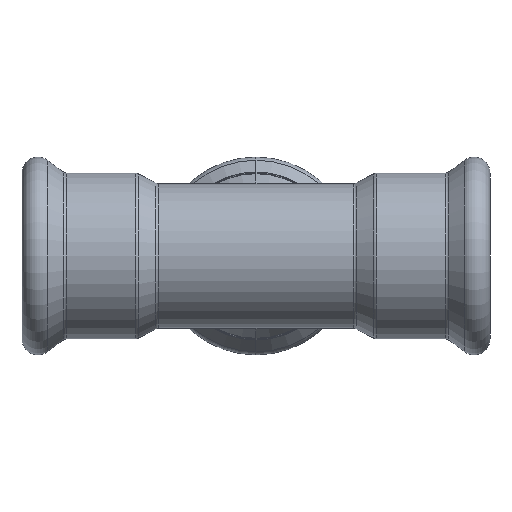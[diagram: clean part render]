
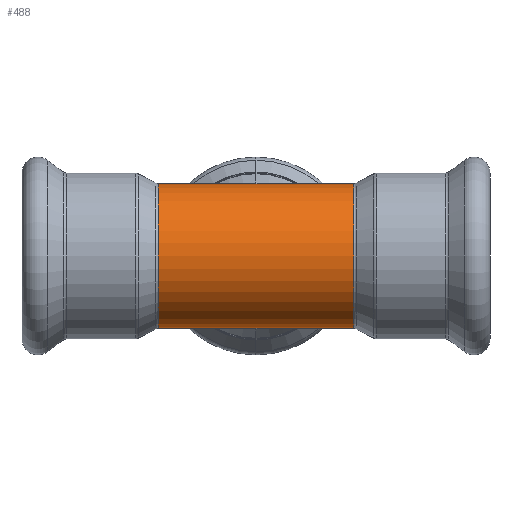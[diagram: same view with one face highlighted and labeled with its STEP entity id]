
A CAD part, front view. The second image highlights one B-rep face of the part: STEP entity #488.
In plain terms, the highlighted cylindrical face has radius 13.6 mm (diameter 27.2 mm), a partial arc.
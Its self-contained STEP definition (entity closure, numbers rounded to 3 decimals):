
#31 = AXIS2_PLACEMENT_3D ( 'NONE', #3739, #552, #871 ) ;
#71 = VERTEX_POINT ( 'NONE', #2416 ) ;
#248 = CYLINDRICAL_SURFACE ( 'NONE', #31, 13.6 ) ;
#256 = DIRECTION ( 'NONE',  ( -1., 0., 0. ) ) ;
#488 = ADVANCED_FACE ( 'NONE', ( #4178 ), #248, .T. ) ;
#528 = CARTESIAN_POINT ( 'NONE',  ( 0., 0., 13.6 ) ) ;
#552 = DIRECTION ( 'NONE',  ( -1., 0., 0. ) ) ;
#606 = VERTEX_POINT ( 'NONE', #2000 ) ;
#739 = DIRECTION ( 'NONE',  ( -1., 0., 0. ) ) ;
#749 = VERTEX_POINT ( 'NONE', #528 ) ;
#871 = DIRECTION ( 'NONE',  ( 0., 0., 1. ) ) ;
#897 = EDGE_CURVE ( 'NONE', #1519, #1381, #969, .T. ) ;
#934 = EDGE_CURVE ( 'NONE', #1381, #2512, #951, .T. ) ;
#951 = LINE ( 'NONE', #2888, #2190 ) ;
#969 = LINE ( 'NONE', #3544, #3622 ) ;
#998 = CARTESIAN_POINT ( 'NONE',  ( -18.377, 0., -13.6 ) ) ;
#1047 = DIRECTION ( 'NONE',  ( -1., 0., 0. ) ) ;
#1184 = ORIENTED_EDGE ( 'NONE', *, *, #1254, .T. ) ;
#1254 = EDGE_CURVE ( 'NONE', #606, #2512, #3752, .T. ) ;
#1336 = ORIENTED_EDGE ( 'NONE', *, *, #934, .F. ) ;
#1381 = VERTEX_POINT ( 'NONE', #3206 ) ;
#1426 = CARTESIAN_POINT ( 'NONE',  ( 0., 0., 13.6 ) ) ;
#1462 = AXIS2_PLACEMENT_3D ( 'NONE', #2139, #1527, #2807 ) ;
#1519 = VERTEX_POINT ( 'NONE', #2634 ) ;
#1527 = DIRECTION ( 'NONE',  ( 1., 0., 0. ) ) ;
#1609 = ORIENTED_EDGE ( 'NONE', *, *, #3535, .T. ) ;
#1745 = ORIENTED_EDGE ( 'NONE', *, *, #3488, .T. ) ;
#1904 = DIRECTION ( 'NONE',  ( -1., 0., 0. ) ) ;
#2000 = CARTESIAN_POINT ( 'NONE',  ( -18.377, 0., 13.6 ) ) ;
#2109 = DIRECTION ( 'NONE',  ( 0., 0., 1. ) ) ;
#2139 = CARTESIAN_POINT ( 'NONE',  ( -18.377, 0., 0. ) ) ;
#2190 = VECTOR ( 'NONE', #1904, 1000. ) ;
#2287 = EDGE_CURVE ( 'NONE', #749, #606, #3979, .T. ) ;
#2335 = EDGE_LOOP ( 'NONE', ( #3288, #1609, #1745, #2611, #1184, #1336 ) ) ;
#2416 = CARTESIAN_POINT ( 'NONE',  ( 18.377, 0., 13.6 ) ) ;
#2512 = VERTEX_POINT ( 'NONE', #998 ) ;
#2611 = ORIENTED_EDGE ( 'NONE', *, *, #2287, .T. ) ;
#2634 = CARTESIAN_POINT ( 'NONE',  ( 18.377, 0., -13.6 ) ) ;
#2662 = CIRCLE ( 'NONE', #3475, 13.6 ) ;
#2671 = VECTOR ( 'NONE', #739, 1000. ) ;
#2702 = DIRECTION ( 'NONE',  ( -1., 0., 0. ) ) ;
#2759 = CARTESIAN_POINT ( 'NONE',  ( 18.377, 0., 0. ) ) ;
#2807 = DIRECTION ( 'NONE',  ( 0., 0., 1. ) ) ;
#2888 = CARTESIAN_POINT ( 'NONE',  ( 0., 0., -13.6 ) ) ;
#3206 = CARTESIAN_POINT ( 'NONE',  ( 0., 0., -13.6 ) ) ;
#3288 = ORIENTED_EDGE ( 'NONE', *, *, #897, .F. ) ;
#3371 = CARTESIAN_POINT ( 'NONE',  ( 0., 0., 13.6 ) ) ;
#3475 = AXIS2_PLACEMENT_3D ( 'NONE', #2759, #256, #2109 ) ;
#3488 = EDGE_CURVE ( 'NONE', #71, #749, #3976, .T. ) ;
#3535 = EDGE_CURVE ( 'NONE', #1519, #71, #2662, .T. ) ;
#3544 = CARTESIAN_POINT ( 'NONE',  ( 0., 0., -13.6 ) ) ;
#3622 = VECTOR ( 'NONE', #1047, 1000. ) ;
#3739 = CARTESIAN_POINT ( 'NONE',  ( 0., 0., 0. ) ) ;
#3751 = VECTOR ( 'NONE', #2702, 1000. ) ;
#3752 = CIRCLE ( 'NONE', #1462, 13.6 ) ;
#3976 = LINE ( 'NONE', #1426, #3751 ) ;
#3979 = LINE ( 'NONE', #3371, #2671 ) ;
#4178 = FACE_OUTER_BOUND ( 'NONE', #2335, .T. ) ;
